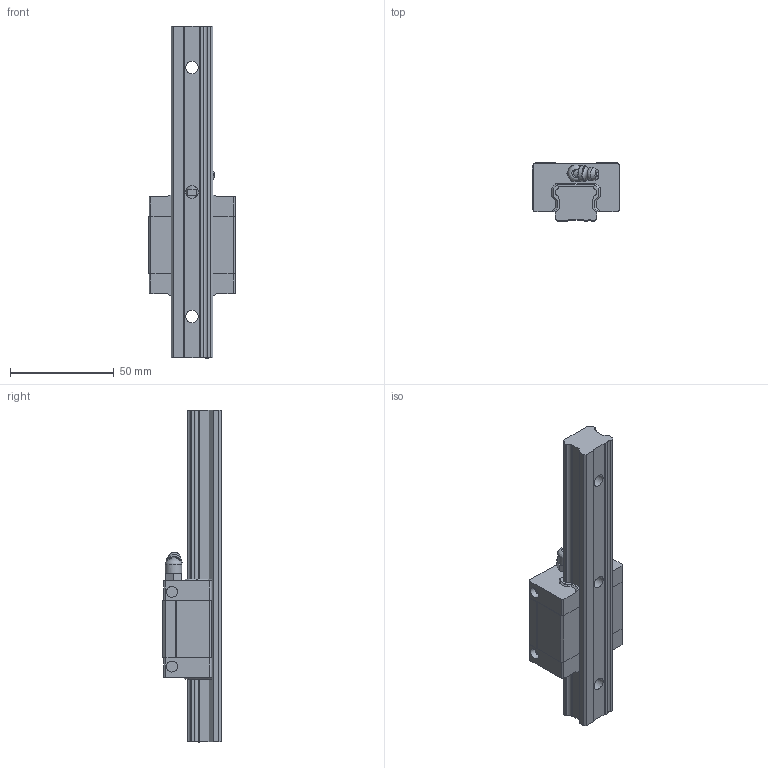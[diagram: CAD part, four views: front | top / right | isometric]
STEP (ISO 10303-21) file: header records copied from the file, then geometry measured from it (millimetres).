
FILE_DESCRIPTION((''),'2;1');
FILE_NAME('D:\製品 (図面)\カタログ用3D\変換ファイル\OZAK_3D-CAD(STEP形式)\Part2.-Linear Guides_ﾘﾆｱｶﾞｲﾄﾞ\07_Eco Guides_ｴｺｶﾞｲﾄﾞ\EGS-S\EGS20S.stp','2010-12-22T11:17:49',('Tsuchiya'),(''),'Autodesk Inventor 10','Autodesk Inventor 10','');
FILE_SCHEMA(('AUTOMOTIVE_DESIGN { 1 0 10303 214 1 1 1 1 }'));
Length unit declared in the file: millimetre
Products named in the file (3): EGS20S; EGS20S1; EGS20S2
Assembly tree (2 placements, depth 2):
  EGS20S
    EGS20S1
    EGS20S2
Bounding box: 42 x 28 x 160 mm (x, y, z)
Volume: 79288.1 mm3; surface area: 23413.1 mm2
Topology: 2 solids, 3 shells, 259 faces, 666 edges, 426 vertices
Faces by surface type: plane 154, cylinder 77, cone 16, bspline 10, torus 1, sphere 1
Full cylindrical faces by diameter (mm): 4.4 x2, 5 x2, 5.3 x4, 6 x6, 7.75 x1, 8 x1, 9.5 x3
Entity records: 7907 total; most frequent: CARTESIAN_POINT 1610, DIRECTION 1302, ORIENTED_EDGE 1260, EDGE_CURVE 630, AXIS2_PLACEMENT_3D 443, VERTEX_POINT 418, VECTOR 416, LINE 416
